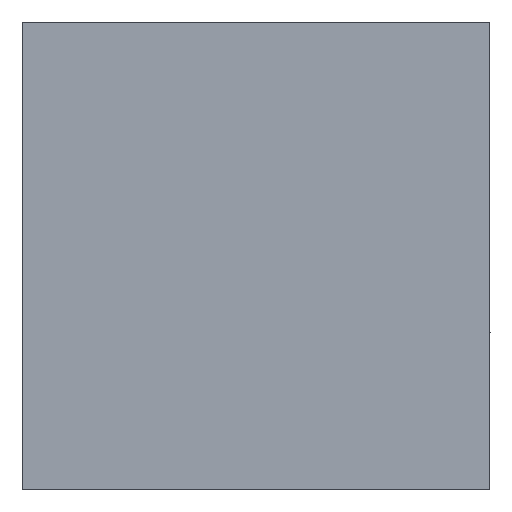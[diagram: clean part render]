
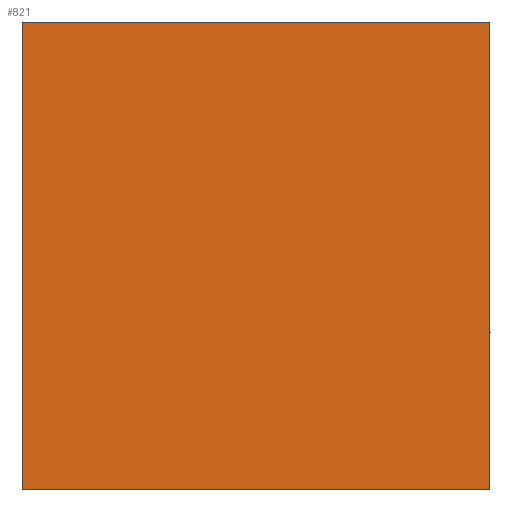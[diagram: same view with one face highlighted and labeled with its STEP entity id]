
A CAD part, front view. The second image highlights one B-rep face of the part: STEP entity #821.
In plain terms, the highlighted planar face has unit normal (0, -1, 0).
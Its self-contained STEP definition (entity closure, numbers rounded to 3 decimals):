
#340=CARTESIAN_POINT('Vertex',(-30.,0.,30.)) ;
#343=CARTESIAN_POINT('Line Origine',(0.,0.,30.)) ;
#347=CARTESIAN_POINT('Vertex',(30.,0.,30.)) ;
#372=CARTESIAN_POINT('Vertex',(30.,0.,-30.)) ;
#375=CARTESIAN_POINT('Line Origine',(30.,0.,0.)) ;
#560=CARTESIAN_POINT('Vertex',(-30.,0.,-30.)) ;
#563=CARTESIAN_POINT('Line Origine',(0.,0.,-30.)) ;
#730=CARTESIAN_POINT('Line Origine',(-30.,0.,0.)) ;
#810=CARTESIAN_POINT('Axis2P3D Location',(0.,0.,-0.)) ;
#344=DIRECTION('Vector Direction',(1.,0.,0.)) ;
#376=DIRECTION('Vector Direction',(0.,0.,-1.)) ;
#564=DIRECTION('Vector Direction',(-1.,0.,0.)) ;
#731=DIRECTION('Vector Direction',(0.,0.,1.)) ;
#811=DIRECTION('Axis2P3D Direction',(0.,1.,-0.)) ;
#812=DIRECTION('Axis2P3D XDirection',(0.,0.,1.)) ;
#813=AXIS2_PLACEMENT_3D('Plane Axis2P3D',#810,#811,#812) ;
#816=ORIENTED_EDGE('',*,*,#567,.F.) ;
#817=ORIENTED_EDGE('',*,*,#379,.F.) ;
#818=ORIENTED_EDGE('',*,*,#349,.F.) ;
#819=ORIENTED_EDGE('',*,*,#734,.F.) ;
#345=VECTOR('Line Direction',#344,1.) ;
#377=VECTOR('Line Direction',#376,1.) ;
#565=VECTOR('Line Direction',#564,1.) ;
#732=VECTOR('Line Direction',#731,1.) ;
#821=ADVANCED_FACE('395V-04-060-160',(#820),#814,.F.) ;
#349=EDGE_CURVE('',#341,#348,#346,.T.) ;
#379=EDGE_CURVE('',#348,#373,#378,.T.) ;
#567=EDGE_CURVE('',#373,#561,#566,.T.) ;
#734=EDGE_CURVE('',#561,#341,#733,.T.) ;
#815=EDGE_LOOP('',(#816,#817,#818,#819)) ;
#820=FACE_OUTER_BOUND('',#815,.T.) ;
#346=LINE('Line',#343,#345) ;
#378=LINE('Line',#375,#377) ;
#566=LINE('Line',#563,#565) ;
#733=LINE('Line',#730,#732) ;
#814=PLANE('Plane',#813) ;
#341=VERTEX_POINT('',#340) ;
#348=VERTEX_POINT('',#347) ;
#373=VERTEX_POINT('',#372) ;
#561=VERTEX_POINT('',#560) ;
